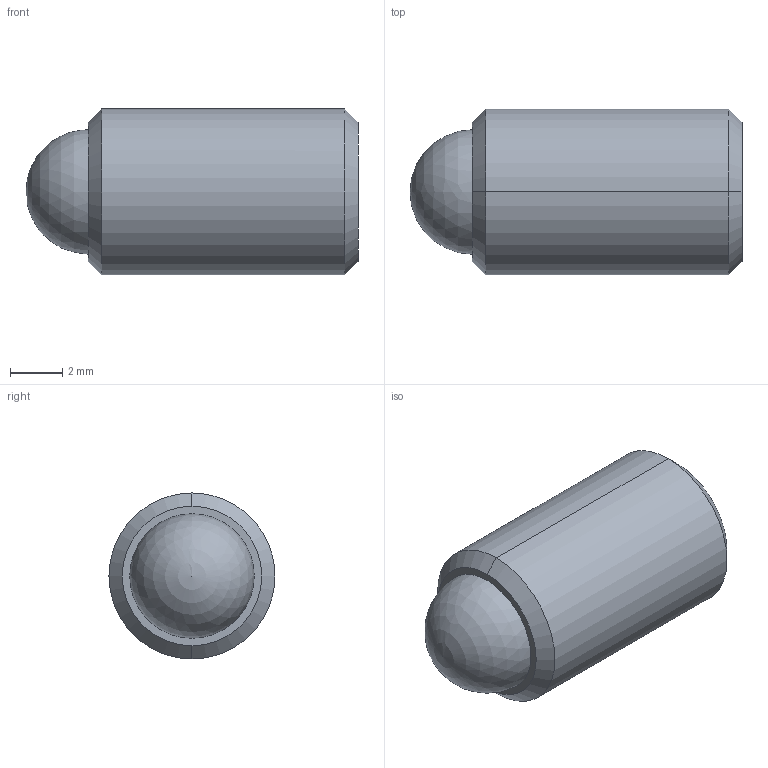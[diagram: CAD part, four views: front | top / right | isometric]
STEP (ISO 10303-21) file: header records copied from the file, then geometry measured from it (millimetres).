
FILE_DESCRIPTION (( 'STEP AP214' ), '1' );
FILE_NAME ('TS250-100-500-AA.STEP', '2013-02-13T13:57:44', ( 'workpc' ), ( 'Microsoft' ), 'SwSTEP 2.0', 'SolidWorks 2013', '' );
FILE_SCHEMA (( 'AUTOMOTIVE_DESIGN' ));
Length unit declared in the file: inch
Products named in the file (1): TS250-100-500-AA
Bounding box: 12.7 x 6.35 x 6.35 mm (x, y, z)
Volume: 335.3 mm3; surface area: 373.3 mm2
Topology: 2 solids, 2 shells, 20 faces, 45 edges, 29 vertices
Faces by surface type: plane 10, cylinder 4, cone 4, sphere 2
Entity records: 599 total; most frequent: DIRECTION 96, CARTESIAN_POINT 87, ORIENTED_EDGE 80, EDGE_CURVE 40, AXIS2_PLACEMENT_3D 35, VERTEX_POINT 26, LINE 26, VECTOR 26
